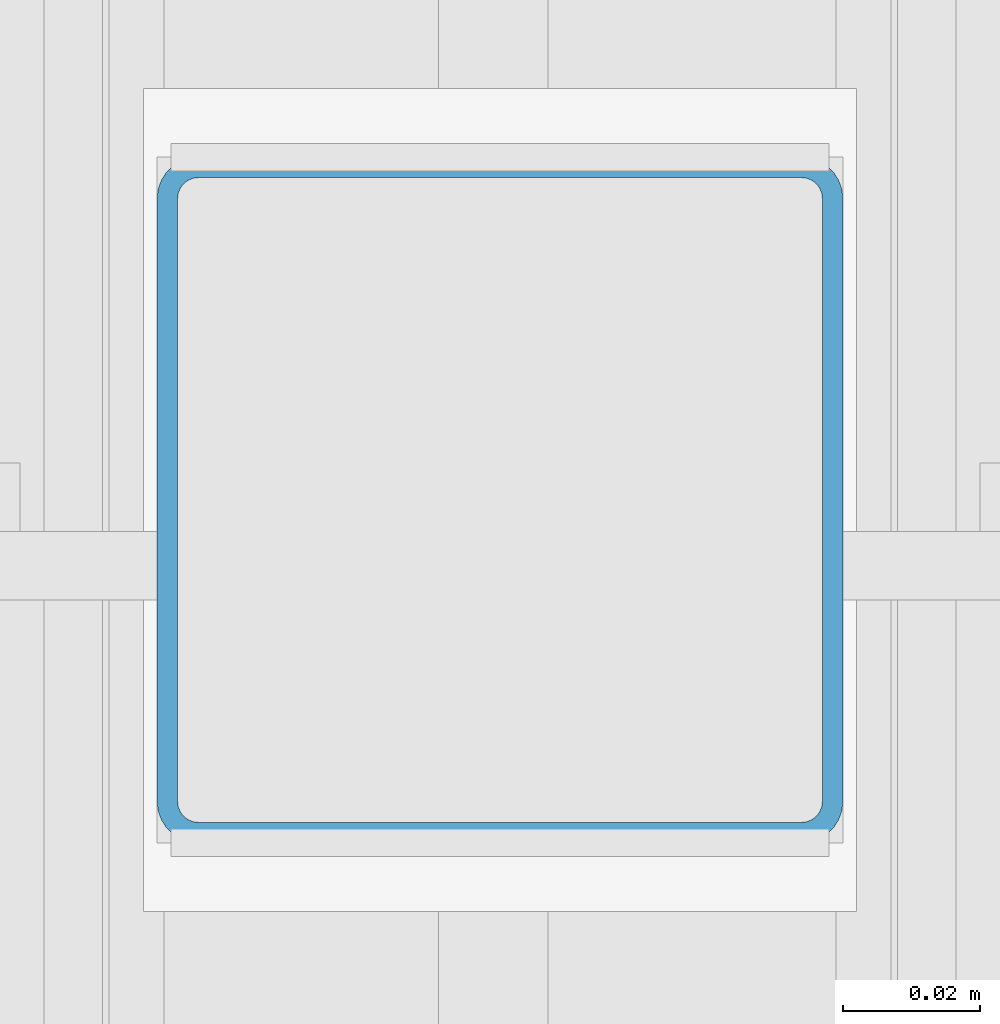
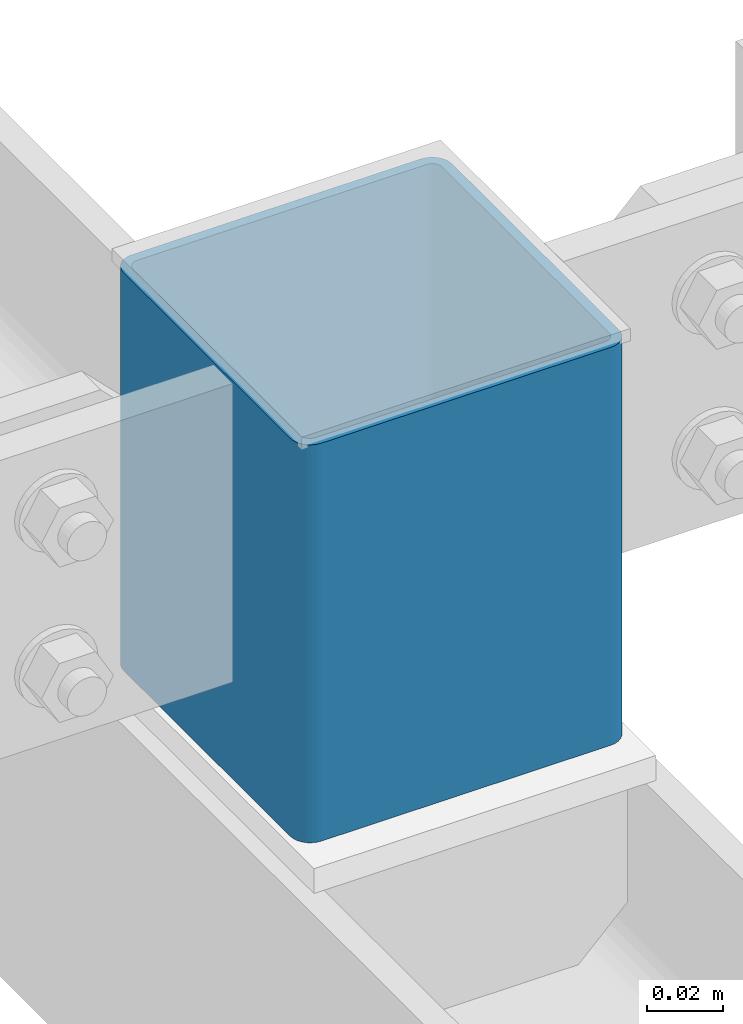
# One storey, part 67 of 271: 1 beam, 1 element without a shape of its own.
"""IFC2X3 building model written with IfcOpenShell, lengths in millimetres."""

from ifc_helpers import new_model, si_unit, frame, origin_with_axes, origin_2d_with_axis, place, context, subcontext, project, spatial, hollow_rectangle, extrude, clip, halfspace, material, type_object, element, aggregate, save


model = new_model("IFC2X3")

# Units and contexts
model_context = context("Model", 3, precision=1e-05, world=origin_with_axes())
body_context = subcontext(model_context, "Body", "Model", "MODEL_VIEW")
ifc_project = project(units=[si_unit("LENGTHUNIT", "METRE", prefix="MILLI"), si_unit("AREAUNIT", "SQUARE_METRE"), si_unit("VOLUMEUNIT", "CUBIC_METRE"), si_unit("MASSUNIT", "GRAM", prefix="KILO"), si_unit("TIMEUNIT", "SECOND"), si_unit("PLANEANGLEUNIT", "RADIAN"), si_unit("SOLIDANGLEUNIT", "STERADIAN"), si_unit("THERMODYNAMICTEMPERATUREUNIT", "DEGREE_CELSIUS"), si_unit("LUMINOUSINTENSITYUNIT", "LUMEN")], contexts=[model_context])

# Site, building, storey
site_placement = place(None, origin_with_axes())
site = spatial("IfcSite", under=ifc_project, at=site_placement, Name="Undefined", CompositionType="ELEMENT")
building_placement = place(site_placement, origin_with_axes())
building = spatial("IfcBuilding", under=site, at=building_placement, Name="Undefined", CompositionType="ELEMENT")
storey_placement = place(building_placement, origin_with_axes())
storey = spatial("IfcBuildingStorey", under=building, at=storey_placement, Name="Undefined", CompositionType="ELEMENT", Elevation=0.0)

# Assembly, beam
assembly_placement = place(storey_placement, origin_with_axes())
assembly = element("IfcElementAssembly", 1, at=assembly_placement, inside=storey, AssemblyPlace="NOTDEFINED", PredefinedType="RIGID_FRAME")
ifc_material = material(Name="STEEL/S355JR")
beam_type = type_object("IfcBeamType", Name="SHS100*3", PredefinedType="NOTDEFINED")
beam_placement = place(assembly_placement, frame((6348.37568736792, 898.924398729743, 20204.3499999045), z_axis=(0.0, 1.0, 0.0), x_axis=(0.0, 0.0, -1.0)))
beam = element("IfcBeam", 2, at=beam_placement, type_object=beam_type, material=ifc_material, Name="TĘŻNIK", ObjectType="SHS100*3", context=body_context, shape_type="Clipping", body=[
    clip(extrude(hollow_rectangle(XDim=100.0, YDim=100.0, WallThickness=3.0, InnerFilletRadius=3.0, OuterFilletRadius=6.0, at=origin_2d_with_axis()), frame((132.0, 0.0, 0.0), z_axis=(-1.0, 0.0, 1.38777878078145e-17), x_axis=(0.0, -1.0, 0.0)), (0.0, 0.0, 1.0), 132.0), halfspace(frame((4.0, 0.0, -50.0), z_axis=(1.0, 0.0, 0.0), x_axis=(0.0, -1.0, 0.0)), True)),
])
aggregate(assembly, [beam])

save(model, "model.ifc")
